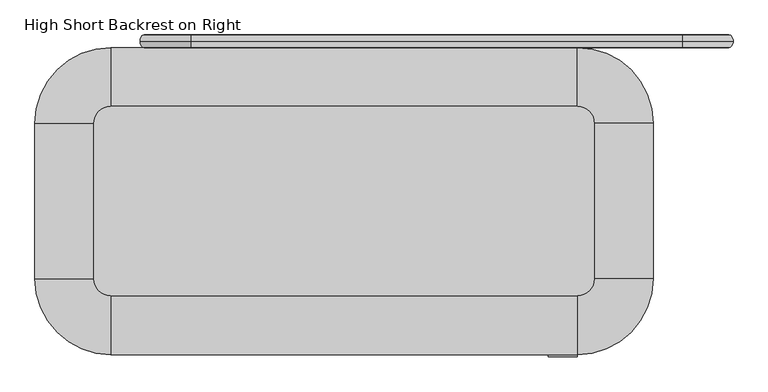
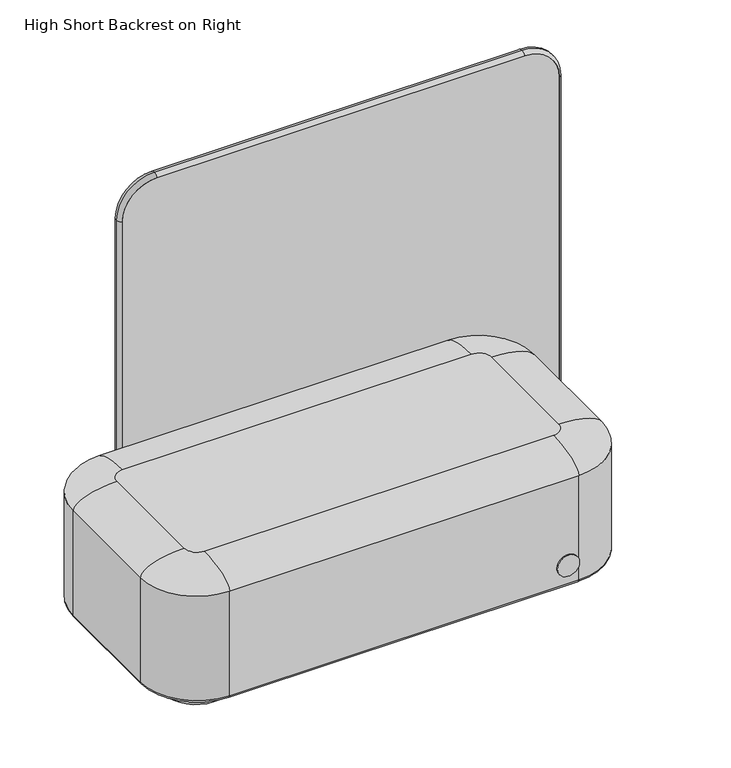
"""IFC4 building model written with IfcOpenShell, lengths in millimetres: furniture geometry, PODLounge  : High Short Backrest on Right."""

import ifcopenshell
import ifcopenshell.guid

model = None  # the IFC model being written
_history = None  # IfcOwnerHistory: only IFC2X3 demands one
_inside = {}  # id of a spatial element -> (the spatial element, [elements in it])
_under = {}  # id of a project, library or spatial element -> (it, [spatial elements below it])
_declared = {}  # id of a project -> (the project, [libraries it declares])
_typed = {}  # id of a type object -> (the type object, [elements of that type])
_made_of = {}  # id of a material, layer set ... -> (it, [elements and type objects made of it])


def new_model(schema):
    """Start an empty IFC model of exactly this schema.

    Asked for "IFC4X3", IfcOpenShell would pick the latest addendum, in which some entities
    have other attributes; the version numbers below select the first issue.
    IFC2X3 requires an IfcOwnerHistory on every rooted entity: one is made here for all.
    """
    global model, _history
    if schema == "IFC4X3":
        model = ifcopenshell.file(schema_version=(4, 3, 0, 0))
    else:
        model = ifcopenshell.file(schema=schema)
    _inside.clear()
    _under.clear()
    _declared.clear()
    _typed.clear()
    _made_of.clear()
    _history = None
    if model.schema == "IFC2X3":
        org = make("IfcOrganization", Name="unknown")
        user = make(
            "IfcPersonAndOrganization",
            ThePerson=make("IfcPerson", FamilyName="unknown"),
            TheOrganization=org,
        )
        app = make(
            "IfcApplication",
            ApplicationDeveloper=org,
            Version="unknown",
            ApplicationFullName="unknown",
            ApplicationIdentifier="unknown",
        )
        _history = make(
            "IfcOwnerHistory",
            OwningUser=user,
            OwningApplication=app,
            ChangeAction="ADDED",
            CreationDate=0,
        )
    return model


def make(cls, **values):
    """One entity of the class cls with the attributes given. An attribute that is None is left unset."""
    return model.create_entity(
        cls, **{name: value for name, value in values.items() if value is not None}
    )


def rooted(cls, **values):
    """An entity with a GlobalId (a new one), such as an element, a storey or a relation."""
    return make(cls, GlobalId=ifcopenshell.guid.new(), OwnerHistory=_history, **values)


def si_unit(unit_type, name, prefix=None):
    """IfcSIUnit, for example si_unit("LENGTHUNIT", "METRE", prefix="MILLI")."""
    return make("IfcSIUnit", UnitType=unit_type, Prefix=prefix, Name=name)


def assignment(units):
    """IfcUnitAssignment: the units of a project."""
    return None if units is None else make("IfcUnitAssignment", Units=units)


def point(xyz):
    """IfcCartesianPoint."""
    return None if xyz is None else make("IfcCartesianPoint", Coordinates=xyz)


def direction(xyz):
    """IfcDirection."""
    return None if xyz is None else make("IfcDirection", DirectionRatios=xyz)


def frame(location, z_axis=None, x_axis=None):
    """IfcAxis2Placement3D, a coordinate frame: its origin and axes. An axis left out is left unset."""
    return make(
        "IfcAxis2Placement3D",
        Location=point(location),
        Axis=direction(z_axis),
        RefDirection=direction(x_axis),
    )


def frame_2d(location, x_axis=None):
    """IfcAxis2Placement2D, a coordinate frame in the plane: its origin and x axis."""
    return make(
        "IfcAxis2Placement2D", Location=point(location), RefDirection=direction(x_axis)
    )


def origin():
    """The frame at (0, 0, 0) with its axes left unset."""
    return frame((0.0, 0.0, 0.0))


def origin_with_axes():
    """The frame at (0, 0, 0) with the z axis (0, 0, 1) and the x axis (1, 0, 0) written out."""
    return frame((0.0, 0.0, 0.0), z_axis=(0.0, 0.0, 1.0), x_axis=(1.0, 0.0, 0.0))


def place(relative_to, where):
    """IfcLocalPlacement: puts the frame where relative to a parent placement (None: the world)."""
    return make(
        "IfcLocalPlacement", PlacementRelTo=relative_to, RelativePlacement=where
    )


def context(
    kind, dimensions, precision=None, world=None, true_north=None, identifier=None
):
    """IfcGeometricRepresentationContext, for example the 3D "Model" context."""
    return make(
        "IfcGeometricRepresentationContext",
        ContextIdentifier=identifier,
        ContextType=kind,
        CoordinateSpaceDimension=dimensions,
        Precision=precision,
        WorldCoordinateSystem=world,
        TrueNorth=true_north,
    )


def project(units=None, contexts=None):
    """IfcProject with its units and contexts."""
    return rooted(
        "IfcProject",
        Name="project",
        RepresentationContexts=contexts,
        UnitsInContext=assignment(units),
    )


def spatial(cls, under=None, at=None, **own):
    """A site, building, storey or space (cls), placed at a placement, below another one or the project."""
    s = rooted(cls, ObjectPlacement=at, **own)
    if under is not None:
        _under.setdefault(under.id(), (under, []))[1].append(s)
    return s


def polyline(points):
    """IfcPolyline through the points."""
    return make("IfcPolyline", Points=[point(p) for p in points])


def circle_curve(where, radius):
    """IfcCircle in the frame where."""
    return make("IfcCircle", Position=where, Radius=radius)


def ellipse_curve(where, semi_axis1, semi_axis2):
    """IfcEllipse in the frame where."""
    return make(
        "IfcEllipse", Position=where, SemiAxis1=semi_axis1, SemiAxis2=semi_axis2
    )


def trimmed(basis, trim1, trim2, sense, master):
    """IfcTrimmedCurve: the piece of a basis curve between two trims."""
    return make(
        "IfcTrimmedCurve",
        BasisCurve=basis,
        Trim1=trim1,
        Trim2=trim2,
        SenseAgreement=sense,
        MasterRepresentation=master,
    )


def segment(curve, same_sense, transition):
    """IfcCompositeCurveSegment."""
    return make(
        "IfcCompositeCurveSegment",
        Transition=transition,
        SameSense=same_sense,
        ParentCurve=curve,
    )


def composite_curve(segments, self_intersect=None):
    """IfcCompositeCurve: segments joined end to end."""
    return make("IfcCompositeCurve", Segments=segments, SelfIntersect=self_intersect)


def outline(outer, holes=None, kind="AREA"):
    """IfcArbitraryClosedProfileDef: a profile drawn as a closed curve; with holes, ...WithVoids."""
    if holes is None:
        return make("IfcArbitraryClosedProfileDef", ProfileType=kind, OuterCurve=outer)
    return make(
        "IfcArbitraryProfileDefWithVoids",
        ProfileType=kind,
        OuterCurve=outer,
        InnerCurves=holes,
    )


def extrude(swept, where, along, depth):
    """IfcExtrudedAreaSolid: the profile swept, set in the frame where, extruded along a direction by depth."""
    return make(
        "IfcExtrudedAreaSolid",
        SweptArea=swept,
        Position=where,
        ExtrudedDirection=direction(along),
        Depth=depth,
    )


def shape(context_of_items, identifier, shape_type, items):
    """IfcShapeRepresentation: the items that make up one representation, for example the "Body"."""
    return make(
        "IfcShapeRepresentation",
        ContextOfItems=context_of_items,
        RepresentationIdentifier=identifier,
        RepresentationType=shape_type,
        Items=items,
    )


def source(mapping_origin, context_of_items, identifier, shape_type, items):
    """IfcRepresentationMap: a shape defined once, which mapped items show again and again."""
    return make(
        "IfcRepresentationMap",
        MappingOrigin=mapping_origin,
        MappedRepresentation=shape(context_of_items, identifier, shape_type, items),
    )


def transform(
    local_origin,
    x_axis=None,
    y_axis=None,
    z_axis=None,
    scale=None,
    scale2=None,
    scale3=None,
    uniform=True,
):
    """IfcCartesianTransformationOperator3D, or its non-uniform kind. x_axis, y_axis, z_axis: its Axis1, 2, 3."""
    if uniform:
        return make(
            "IfcCartesianTransformationOperator3D",
            Axis1=direction(x_axis),
            Axis2=direction(y_axis),
            LocalOrigin=point(local_origin),
            Scale=scale,
            Axis3=direction(z_axis),
        )
    return make(
        "IfcCartesianTransformationOperator3DnonUniform",
        Axis1=direction(x_axis),
        Axis2=direction(y_axis),
        LocalOrigin=point(local_origin),
        Scale=scale,
        Axis3=direction(z_axis),
        Scale2=scale2,
        Scale3=scale3,
    )


def mapped(mapping_source, mapping_target):
    """IfcMappedItem: shows the shape of a source again, moved by a transform."""
    return make(
        "IfcMappedItem", MappingSource=mapping_source, MappingTarget=mapping_target
    )


def made_of(thing, what):
    """Note that an element or type object is made of a material, layer set ...; save() writes the relation."""
    if what is not None:
        _made_of.setdefault(what.id(), (what, []))[1].append(thing)
    return thing


def element(
    cls,
    number,
    at=None,
    inside=None,
    cuts=None,
    type_object=None,
    material=None,
    context=None,
    identifier="Body",
    shape_type=None,
    held_by="IfcProductDefinitionShape",
    body=None,
    shapes=None,
    **own,
):
    """One element of the class cls, such as IfcWall. Its Tag is "e" and its number.

    at: its placement. inside: the storey or other place that contains it. cuts: it is an
    opening in that element (IfcRelVoidsElement). A single representation is given by context,
    identifier, shape_type and body (its items); several are given by shapes. held_by: the class
    of the entity that holds the representations. save() writes the other relations.
    """
    e = rooted(cls, Tag="e%d" % number, ObjectPlacement=at, **own)
    if body is not None:
        shapes = [shape(context, identifier, shape_type, body)]
    if shapes is not None:
        e.Representation = make(held_by, Representations=shapes)
    if inside is not None:
        _inside.setdefault(inside.id(), (inside, []))[1].append(e)
    if cuts is not None:
        rooted(
            "IfcRelVoidsElement", RelatingBuildingElement=cuts, RelatedOpeningElement=e
        )
    if type_object is not None:
        _typed.setdefault(type_object.id(), (type_object, []))[1].append(e)
    return made_of(e, material)


def aggregate(whole, parts):
    """IfcRelAggregates: a whole, such as a stair, and the parts it consists of."""
    return rooted("IfcRelAggregates", RelatingObject=whole, RelatedObjects=parts)


def save(model, path):
    """Write the relations noted so far, then the file.

    IfcRelAggregates (storeys below a building ...), IfcRelContainedInSpatialStructure (elements
    in a storey), IfcRelDefinesByType, IfcRelAssociatesMaterial and IfcRelDeclares: one each for
    every whole, place, type object, material and project.
    """
    for whole, parts in _under.values():
        aggregate(whole, parts)
    for where, things in _inside.values():
        rooted(
            "IfcRelContainedInSpatialStructure",
            RelatedElements=things,
            RelatingStructure=where,
        )
    for kind, things in _typed.values():
        rooted("IfcRelDefinesByType", RelatedObjects=things, RelatingType=kind)
    for what, things in _made_of.values():
        rooted("IfcRelAssociatesMaterial", RelatedObjects=things, RelatingMaterial=what)
    for by, libraries in _declared.values():
        rooted("IfcRelDeclares", RelatingContext=by, RelatedDefinitions=libraries)
    model.write(path)


def plane_surface(at):
    """IfcPlane: the flat surface through the origin of the frame at, square to its z axis."""
    return make("IfcPlane", Position=at)


def cylinder_surface(at, radius):
    """IfcCylindricalSurface: all points at the distance radius from the z axis of the frame at."""
    return make("IfcCylindricalSurface", Position=at, Radius=radius)


def revolved_surface(curve, axis_point, axis_direction):
    """IfcSurfaceOfRevolution: the curve turned about the line through axis_point along axis_direction."""
    return make(
        "IfcSurfaceOfRevolution",
        SweptCurve=make("IfcArbitraryOpenProfileDef", ProfileType="CURVE", Curve=curve),
        AxisPosition=make("IfcAxis1Placement", Location=point(axis_point), Axis=direction(axis_direction)),
    )


def extruded_surface(curve, direction_of_extrusion, depth):
    """IfcSurfaceOfLinearExtrusion: the curve pushed along a direction by depth."""
    return make(
        "IfcSurfaceOfLinearExtrusion",
        SweptCurve=make("IfcArbitraryOpenProfileDef", ProfileType="CURVE", Curve=curve),
        ExtrudedDirection=direction(direction_of_extrusion),
        Depth=depth,
    )


def advanced_brep(points, edges, surfaces, faces):
    """IfcAdvancedBrep: a solid bounded by faces that lie on surfaces and meet in shared edges.

    An edge is (start, end): straight between two places in points (the first is 0);
    or (start, end, curve); or (start, end, curve, False) where it runs against its curve.
    A face is (place in surfaces, loops), or (place, loops, False) where it looks against
    its surface's normal. A loop lists edges by number (the first is 1), with a minus sign
    where the edge is run from its end to its start. The first loop is the outer one.
    """
    corners = [point(p) for p in points]
    vertices = [make("IfcVertexPoint", VertexGeometry=c) for c in corners]
    made = []
    for start, end, *more in edges:
        made.append(
            make(
                "IfcEdgeCurve",
                EdgeStart=vertices[start],
                EdgeEnd=vertices[end],
                EdgeGeometry=more[0] if more else make("IfcPolyline", Points=[corners[start], corners[end]]),
                SameSense=more[1] if len(more) > 1 else True,
            )
        )
    hull = []
    for where, loops, *sense in faces:
        bounds = []
        for j, loop in enumerate(loops):
            ring = [make("IfcOrientedEdge", EdgeElement=made[abs(k) - 1], Orientation=k > 0) for k in loop]
            bounds.append(
                make(
                    "IfcFaceOuterBound" if j == 0 else "IfcFaceBound",
                    Bound=make("IfcEdgeLoop", EdgeList=ring),
                    Orientation=True,
                )
            )
        hull.append(make("IfcAdvancedFace", Bounds=bounds, FaceSurface=surfaces[where], SameSense=sense[0] if sense else True))
    return make("IfcAdvancedBrep", Outer=make("IfcClosedShell", CfsFaces=hull))


def high_short_backrest_on_right_1baca0a9(model_context):
    return source(origin(), model_context, "Body", "SolidModel", [
        advanced_brep(
        [(-329.9999916, 380.0, 12.0), (-360.0000084, 380.0, 12.0), (-350.0, 380.0, 12.0), (-340.0, 380.0, 12.0), (-350.0, 380.0, 37.4784241), (-340.0, 380.0, 37.4784241), (-345.0, 380.0, 37.4784241), (-345.0, 380.0, 0.0), (-360.0000084, 380.0, 0.0), (-329.9999916, 380.0, 0.0)],
        [
            (0, 1, circle_curve(frame((-345.0, 380.0, 12.0), z_axis=(0.0, 0.0, 1.0), x_axis=(-1.0, 0.0, 0.0)), 15.0000084)),
            (1, 2),
            (2, 3, circle_curve(frame((-345.0, 380.0, 12.0), z_axis=(0.0, 0.0, -1.0), x_axis=(-1.0, 0.0, 0.0)), 5.0)),
            (3, 0),
            (1, 0, circle_curve(frame((-345.0, 380.0, 12.0), z_axis=(0.0, 0.0, 1.0), x_axis=(-1.0, 0.0, 0.0)), 15.0000084)),
            (3, 2, circle_curve(frame((-345.0, 380.0, 12.0), z_axis=(0.0, 0.0, -1.0), x_axis=(-1.0, 0.0, 0.0)), 5.0)),
            (2, 4),
            (4, 5, circle_curve(frame((-345.0, 380.0, 37.4784241), z_axis=(0.0, 0.0, -1.0), x_axis=(-1.0, 0.0, 0.0)), 5.0)),
            (5, 3),
            (5, 4, circle_curve(frame((-345.0, 380.0, 37.4784241), z_axis=(0.0, 0.0, -1.0), x_axis=(-1.0, 0.0, 0.0)), 5.0)),
            (4, 6),
            (6, 5),
            (7, 8),
            (8, 9, circle_curve(frame((-345.0, 380.0, 0.0), z_axis=(0.0, 0.0, -1.0), x_axis=(-1.0, 0.0, 0.0)), 15.0000084)),
            (9, 7),
            (9, 8, circle_curve(frame((-345.0, 380.0, 0.0), z_axis=(0.0, 0.0, -1.0), x_axis=(-1.0, 0.0, 0.0)), 15.0000084)),
            (8, 1),
            (0, 9),
        ],
        [
            plane_surface(frame((-345.0, 380.0, 12.0), z_axis=(0.0, 0.0, 1.0), x_axis=(-1.0, 0.0, 0.0))),
            cylinder_surface(frame((-345.0, 380.0, 37.4784241), z_axis=(0.0, 0.0, -1.0), x_axis=(-1.0, 0.0, 0.0)), 5.0),
            plane_surface(frame((-345.0, 380.0, 37.4784241), z_axis=(0.0, 0.0, 1.0), x_axis=(-1.0, 0.0, 0.0))),
            plane_surface(frame((-345.0, 380.0, 0.0), z_axis=(0.0, 0.0, -1.0), x_axis=(-1.0, 0.0, 0.0))),
            cylinder_surface(frame((-345.0, 380.0, 37.4784241), z_axis=(0.0, 0.0, -1.0), x_axis=(-1.0, 0.0, 0.0)), 15.0000084),
        ],
        [
            (0, [[1, 2, 3, 4]]),
            (0, [[5, -4, 6, -2]]),
            (1, [[-3, 7, 8, 9]]),
            (1, [[-6, -9, 10, -7]]),
            (2, [[-8, 11, 12]]),
            (2, [[-10, -12, -11]]),
            (3, [[13, 14, 15]]),
            (3, [[-15, 16, -13]]),
            (4, [[-14, 17, -1, 18]]),
            (4, [[-16, -18, -5, -17]]),
        ],
    ),
        advanced_brep(
        [(769.9999916, 380.0, 12.0), (780.0, 380.0, 12.0), (790.0, 380.0, 12.0), (800.0000084, 380.0, 12.0), (780.0, 380.0, 37.4784241), (790.0, 380.0, 37.4784241), (785.0, 380.0, 37.4784241), (785.0, 380.0, 0.0), (769.9999916, 380.0, 0.0), (800.0000084, 380.0, 0.0)],
        [
            (0, 1),
            (1, 2, circle_curve(frame((785.0, 380.0, 12.0), z_axis=(0.0, 0.0, -1.0), x_axis=(1.0, 0.0, 0.0)), 5.0)),
            (2, 3),
            (3, 0, circle_curve(frame((785.0, 380.0, 12.0), z_axis=(0.0, 0.0, 1.0), x_axis=(1.0, 0.0, 0.0)), 15.0000084)),
            (2, 1, circle_curve(frame((785.0, 380.0, 12.0), z_axis=(0.0, 0.0, -1.0), x_axis=(1.0, 0.0, 0.0)), 5.0)),
            (0, 3, circle_curve(frame((785.0, 380.0, 12.0), z_axis=(0.0, 0.0, 1.0), x_axis=(1.0, 0.0, 0.0)), 15.0000084)),
            (1, 4),
            (4, 5, circle_curve(frame((785.0, 380.0, 37.4784241), z_axis=(0.0, 0.0, -1.0), x_axis=(1.0, 0.0, 0.0)), 5.0)),
            (5, 2),
            (5, 4, circle_curve(frame((785.0, 380.0, 37.4784241), z_axis=(0.0, 0.0, -1.0), x_axis=(1.0, 0.0, 0.0)), 5.0)),
            (4, 6),
            (6, 5),
            (7, 8),
            (8, 9, circle_curve(frame((785.0, 380.0, 0.0), z_axis=(0.0, 0.0, -1.0), x_axis=(1.0, 0.0, 0.0)), 15.0000084)),
            (9, 7),
            (9, 8, circle_curve(frame((785.0, 380.0, 0.0), z_axis=(0.0, 0.0, -1.0), x_axis=(1.0, 0.0, 0.0)), 15.0000084)),
            (8, 0),
            (3, 9),
        ],
        [
            plane_surface(frame((785.0, 380.0, 12.0), z_axis=(0.0, 0.0, 1.0), x_axis=(1.0, 0.0, 0.0))),
            cylinder_surface(frame((785.0, 380.0, 37.4784241), z_axis=(0.0, 0.0, -1.0), x_axis=(1.0, 0.0, 0.0)), 5.0),
            plane_surface(frame((785.0, 380.0, 37.4784241), z_axis=(0.0, 0.0, 1.0), x_axis=(1.0, 0.0, 0.0))),
            plane_surface(frame((785.0, 380.0, 0.0), z_axis=(0.0, 0.0, -1.0), x_axis=(1.0, 0.0, 0.0))),
            cylinder_surface(frame((785.0, 380.0, 37.4784241), z_axis=(0.0, 0.0, -1.0), x_axis=(1.0, 0.0, 0.0)), 15.0000084),
        ],
        [
            (0, [[1, 2, 3, 4]]),
            (0, [[-3, 5, -1, 6]]),
            (1, [[7, 8, 9, -2]]),
            (1, [[-9, 10, -7, -5]]),
            (2, [[11, 12, -8]]),
            (2, [[-12, -11, -10]]),
            (3, [[13, 14, 15]]),
            (3, [[-15, 16, -13]]),
            (4, [[17, -4, 18, -14]]),
            (4, [[-18, -6, -17, -16]]),
        ],
    ),
        advanced_brep(
        [(915.0, 395.0, 1180.0), (915.0, 365.0, 1180.0), (805.0, 365.0, 1290.0), (805.0, 395.0, 1290.0), (915.0, 395.0, 150.0), (915.0, 365.0, 150.0), (805.0, 395.0, 40.0), (805.0, 365.0, 40.0), (-365.0, 395.0, 40.0), (-365.0, 365.0, 40.0), (-475.0, 395.0, 150.0), (-475.0, 365.0, 150.0), (-475.0, 395.0, 1180.0), (-475.0, 365.0, 1180.0), (-365.0, 395.0, 1290.0), (-365.0, 365.0, 1290.0), (924.9992342, 379.8143612, 1180.0), (805.0, 379.8143612, 1299.9992342), (924.9992342, 379.8143612, 150.0), (805.0, 379.8143612, 30.0007658), (-365.0, 379.8143612, 30.0007658), (-484.9992342, 379.8143612, 150.0), (-484.9992342, 379.8143612, 1180.0), (-365.0, 379.8143612, 1299.9992342)],
        [
            (0, 1),
            (1, 2, circle_curve(frame((805.0, 365.0, 1180.0), z_axis=(0.0, -1.0, 0.0), x_axis=(0.0, 0.0, 1.0)), 110.0)),
            (2, 3),
            (3, 0, circle_curve(frame((805.0, 395.0, 1180.0), z_axis=(0.0, 1.0, 0.0), x_axis=(0.0, 0.0, 1.0)), 110.0)),
            (0, 4),
            (4, 5),
            (5, 1),
            (6, 7),
            (7, 5, circle_curve(frame((805.0, 365.0, 150.0), z_axis=(0.0, -1.0, 0.0), x_axis=(1.0, 0.0, 0.0)), 110.0)),
            (4, 6, circle_curve(frame((805.0, 395.0, 150.0), z_axis=(0.0, 1.0, 0.0), x_axis=(1.0, 0.0, 0.0)), 110.0)),
            (6, 8),
            (8, 9),
            (9, 7),
            (10, 11),
            (11, 9, circle_curve(frame((-365.0, 365.0, 150.0), z_axis=(0.0, -1.0, 0.0), x_axis=(0.0, 0.0, -1.0)), 110.0)),
            (8, 10, circle_curve(frame((-365.0, 395.0, 150.0), z_axis=(0.0, 1.0, 0.0), x_axis=(0.0, 0.0, -1.0)), 110.0)),
            (10, 12),
            (12, 13),
            (13, 11),
            (14, 15),
            (15, 13, circle_curve(frame((-365.0, 365.0, 1180.0), z_axis=(0.0, -1.0, 0.0), x_axis=(-1.0, 0.0, 0.0)), 110.0)),
            (12, 14, circle_curve(frame((-365.0, 395.0, 1180.0), z_axis=(0.0, 1.0, 0.0), x_axis=(-1.0, 0.0, 0.0)), 110.0)),
            (14, 3),
            (2, 15),
            (16, 0, ellipse_curve(frame((915.0, 380.0, 1180.0), z_axis=(0.0, 0.0, 1.0), x_axis=(0.0, 1.0, 0.0)), 15.0, 10.0)),
            (3, 17, ellipse_curve(frame((805.0, 380.0, 1290.0), z_axis=(1.0, 0.0, 0.0), x_axis=(0.0, 1.0, 0.0)), 15.0, 10.0)),
            (17, 16, circle_curve(frame((805.0, 379.8143612, 1180.0), z_axis=(0.0, 1.0, 0.0), x_axis=(0.0, 0.0, 1.0)), 119.9992342)),
            (1, 16, ellipse_curve(frame((915.0, 380.0, 1180.0), z_axis=(0.0, 0.0, 1.0), x_axis=(0.0, 1.0, 0.0)), 15.0, 10.0)),
            (17, 2, ellipse_curve(frame((805.0, 380.0, 1290.0), z_axis=(1.0, 0.0, 0.0), x_axis=(0.0, 1.0, 0.0)), 15.0, 10.0)),
            (16, 18),
            (18, 4, ellipse_curve(frame((915.0, 380.0, 150.0), z_axis=(0.0, 0.0, 1.0), x_axis=(0.0, 1.0, 0.0)), 15.0, 10.0)),
            (5, 18, ellipse_curve(frame((915.0, 380.0, 150.0), z_axis=(0.0, 0.0, 1.0), x_axis=(0.0, 1.0, 0.0)), 15.0, 10.0)),
            (19, 6, ellipse_curve(frame((805.0, 380.0, 40.0), z_axis=(1.0, 0.0, 0.0), x_axis=(0.0, 1.0, 0.0)), 15.0, 10.0)),
            (18, 19, circle_curve(frame((805.0, 379.8143612, 150.0), z_axis=(0.0, 1.0, 0.0), x_axis=(1.0, 0.0, 0.0)), 119.9992342)),
            (7, 19, ellipse_curve(frame((805.0, 380.0, 40.0), z_axis=(1.0, 0.0, 0.0), x_axis=(0.0, 1.0, 0.0)), 15.0, 10.0)),
            (19, 20),
            (20, 8, ellipse_curve(frame((-365.0, 380.0, 40.0), z_axis=(1.0, 0.0, 0.0), x_axis=(0.0, 1.0, 0.0)), 15.0, 10.0)),
            (9, 20, ellipse_curve(frame((-365.0, 380.0, 40.0), z_axis=(1.0, 0.0, 0.0), x_axis=(0.0, 1.0, 0.0)), 15.0, 10.0)),
            (21, 10, ellipse_curve(frame((-475.0, 380.0, 150.0), z_axis=(0.0, 0.0, -1.0), x_axis=(0.0, 1.0, 0.0)), 15.0, 10.0)),
            (20, 21, circle_curve(frame((-365.0, 379.8143612, 150.0), z_axis=(0.0, 1.0, 0.0), x_axis=(0.0, 0.0, -1.0)), 119.9992342)),
            (11, 21, ellipse_curve(frame((-475.0, 380.0, 150.0), z_axis=(0.0, 0.0, -1.0), x_axis=(0.0, 1.0, 0.0)), 15.0, 10.0)),
            (21, 22),
            (22, 12, ellipse_curve(frame((-475.0, 380.0, 1180.0), z_axis=(0.0, 0.0, -1.0), x_axis=(0.0, 1.0, 0.0)), 15.0, 10.0)),
            (13, 22, ellipse_curve(frame((-475.0, 380.0, 1180.0), z_axis=(0.0, 0.0, -1.0), x_axis=(0.0, 1.0, 0.0)), 15.0, 10.0)),
            (23, 14, ellipse_curve(frame((-365.0, 380.0, 1290.0), z_axis=(-1.0, 0.0, 0.0), x_axis=(0.0, 1.0, 0.0)), 15.0, 10.0)),
            (22, 23, circle_curve(frame((-365.0, 379.8143612, 1180.0), z_axis=(0.0, 1.0, 0.0), x_axis=(-1.0, 0.0, 0.0)), 119.9992342)),
            (15, 23, ellipse_curve(frame((-365.0, 380.0, 1290.0), z_axis=(-1.0, 0.0, 0.0), x_axis=(0.0, 1.0, 0.0)), 15.0, 10.0)),
            (23, 17),
        ],
        [
            revolved_surface(polyline([(805.0, 365.0, 1290.0), (805.0, 395.0, 1290.0)]), (805.0, 395.0, 1180.0), (0.0, -1.0, 0.0)),
            plane_surface(frame((915.0, 365.0, 1180.0), z_axis=(-1.0, 0.0, 0.0), x_axis=(0.0, 0.0, -1.0))),
            revolved_surface(polyline([(915.0, 365.0, 150.0), (915.0, 395.0, 150.0)]), (805.0, 395.0, 150.0), (0.0, -1.0, 0.0)),
            plane_surface(frame((805.0, 365.0, 40.0), z_axis=(0.0, 0.0, 1.0), x_axis=(-1.0, 0.0, 0.0))),
            revolved_surface(polyline([(-365.0, 365.0, 40.0), (-365.0, 395.0, 40.0)]), (-365.0, 395.0, 150.0), (0.0, -1.0, 0.0)),
            plane_surface(frame((-475.0, 365.0, 150.0), z_axis=(1.0, 0.0, 0.0), x_axis=(0.0, 0.0, 1.0))),
            revolved_surface(polyline([(-475.0, 365.0, 1180.0), (-475.0, 395.0, 1180.0)]), (-365.0, 395.0, 1180.0), (0.0, -1.0, 0.0)),
            plane_surface(frame((-365.0, 365.0, 1290.0), z_axis=(0.0, 0.0, -1.0), x_axis=(1.0, 0.0, 0.0))),
            revolved_surface(trimmed(ellipse_curve(frame((805.0, 380.0, 1290.0), z_axis=(1.0, 0.0, 0.0), x_axis=(0.0, 1.0, 0.0)), 15.0, 10.0), [point((805.0, 395.0, 1290.0))], [point((805.0, 379.8143612, 1299.9992342))], True, "CARTESIAN"), (805.0, 395.0, 1180.0), (0.0, -1.0, 0.0)),
            revolved_surface(trimmed(ellipse_curve(frame((805.0, 380.0, 1290.0), z_axis=(1.0, 0.0, 0.0), x_axis=(0.0, 1.0, 0.0)), 15.0, 10.0), [point((805.0, 379.8143612, 1299.9992342))], [point((805.0, 365.0, 1290.0))], True, "CARTESIAN"), (805.0, 395.0, 1180.0), (0.0, -1.0, 0.0)),
            extruded_surface(trimmed(ellipse_curve(frame((915.0, 380.0, 1180.0), z_axis=(0.0, 0.0, -1.0), x_axis=(0.0, 1.0, 0.0)), 15.0, 10.0), [point((915.0, 395.0, 1180.0))], [point((924.9992342, 379.8143612, 1180.0))], True, "CARTESIAN"), (0.0, 0.0, -1030.0), 1030.0),
            extruded_surface(trimmed(ellipse_curve(frame((915.0, 380.0, 1180.0), z_axis=(0.0, 0.0, -1.0), x_axis=(0.0, 1.0, 0.0)), 15.0, 10.0), [point((924.9992342, 379.8143612, 1180.0))], [point((915.0, 365.0, 1180.0))], True, "CARTESIAN"), (0.0, 0.0, -1030.0), 1030.0),
            revolved_surface(trimmed(ellipse_curve(frame((915.0, 380.0, 150.0), z_axis=(0.0, 0.0, -1.0), x_axis=(0.0, 1.0, 0.0)), 15.0, 10.0), [point((915.0, 395.0, 150.0))], [point((924.9992342, 379.8143612, 150.0))], True, "CARTESIAN"), (805.0, 395.0, 150.0), (0.0, -1.0, 0.0)),
            revolved_surface(trimmed(ellipse_curve(frame((915.0, 380.0, 150.0), z_axis=(0.0, 0.0, -1.0), x_axis=(0.0, 1.0, 0.0)), 15.0, 10.0), [point((924.9992342, 379.8143612, 150.0))], [point((915.0, 365.0, 150.0))], True, "CARTESIAN"), (805.0, 395.0, 150.0), (0.0, -1.0, 0.0)),
            extruded_surface(trimmed(ellipse_curve(frame((805.0, 380.0, 40.0), z_axis=(-1.0, 0.0, 0.0), x_axis=(0.0, 1.0, 0.0)), 15.0, 10.0), [point((805.0, 395.0, 40.0))], [point((805.0, 379.8143612, 30.0007658))], True, "CARTESIAN"), (-1170.0, 0.0, 0.0), 1170.0),
            extruded_surface(trimmed(ellipse_curve(frame((805.0, 380.0, 40.0), z_axis=(-1.0, 0.0, 0.0), x_axis=(0.0, 1.0, 0.0)), 15.0, 10.0), [point((805.0, 379.8143612, 30.0007658))], [point((805.0, 365.0, 40.0))], True, "CARTESIAN"), (-1170.0, 0.0, 0.0), 1170.0),
            revolved_surface(trimmed(ellipse_curve(frame((-365.0, 380.0, 40.0), z_axis=(-1.0, 0.0, 0.0), x_axis=(0.0, 1.0, 0.0)), 15.0, 10.0), [point((-365.0, 395.0, 40.0))], [point((-365.0, 379.8143612, 30.0007658))], True, "CARTESIAN"), (-365.0, 395.0, 150.0), (0.0, -1.0, 0.0)),
            revolved_surface(trimmed(ellipse_curve(frame((-365.0, 380.0, 40.0), z_axis=(-1.0, 0.0, 0.0), x_axis=(0.0, 1.0, 0.0)), 15.0, 10.0), [point((-365.0, 379.8143612, 30.0007658))], [point((-365.0, 365.0, 40.0))], True, "CARTESIAN"), (-365.0, 395.0, 150.0), (0.0, -1.0, 0.0)),
            extruded_surface(trimmed(ellipse_curve(frame((-475.0, 380.0, 150.0), z_axis=(0.0, 0.0, 1.0), x_axis=(0.0, 1.0, 0.0)), 15.0, 10.0), [point((-475.0, 395.0, 150.0))], [point((-484.9992342, 379.8143612, 150.0))], True, "CARTESIAN"), (0.0, 0.0, 1030.0), 1030.0),
            extruded_surface(trimmed(ellipse_curve(frame((-475.0, 380.0, 150.0), z_axis=(0.0, 0.0, 1.0), x_axis=(0.0, 1.0, 0.0)), 15.0, 10.0), [point((-484.9992342, 379.8143612, 150.0))], [point((-475.0, 365.0, 150.0))], True, "CARTESIAN"), (0.0, 0.0, 1030.0), 1030.0),
            revolved_surface(trimmed(ellipse_curve(frame((-475.0, 380.0, 1180.0), z_axis=(0.0, 0.0, 1.0), x_axis=(0.0, 1.0, 0.0)), 15.0, 10.0), [point((-475.0, 395.0, 1180.0))], [point((-484.9992342, 379.8143612, 1180.0))], True, "CARTESIAN"), (-365.0, 395.0, 1180.0), (0.0, -1.0, 0.0)),
            revolved_surface(trimmed(ellipse_curve(frame((-475.0, 380.0, 1180.0), z_axis=(0.0, 0.0, 1.0), x_axis=(0.0, 1.0, 0.0)), 15.0, 10.0), [point((-484.9992342, 379.8143612, 1180.0))], [point((-475.0, 365.0, 1180.0))], True, "CARTESIAN"), (-365.0, 395.0, 1180.0), (0.0, -1.0, 0.0)),
            extruded_surface(trimmed(ellipse_curve(frame((-365.0, 380.0, 1290.0), z_axis=(1.0, 0.0, 0.0), x_axis=(0.0, 1.0, 0.0)), 15.0, 10.0), [point((-365.0, 395.0, 1290.0))], [point((-365.0, 379.8143612, 1299.9992342))], True, "CARTESIAN"), (1170.0, 0.0, 0.0), 1170.0),
            extruded_surface(trimmed(ellipse_curve(frame((-365.0, 380.0, 1290.0), z_axis=(1.0, 0.0, 0.0), x_axis=(0.0, 1.0, 0.0)), 15.0, 10.0), [point((-365.0, 379.8143612, 1299.9992342))], [point((-365.0, 365.0, 1290.0))], True, "CARTESIAN"), (1170.0, 0.0, 0.0), 1170.0),
        ],
        [
            (0, [[1, 2, 3, 4]]),
            (1, [[5, 6, 7, -1]]),
            (2, [[8, 9, -6, 10]]),
            (3, [[11, 12, 13, -8]]),
            (4, [[14, 15, -12, 16]]),
            (5, [[17, 18, 19, -14]]),
            (6, [[20, 21, -18, 22]]),
            (7, [[23, -3, 24, -20]]),
            (8, [[25, -4, 26, 27]]),
            (9, [[28, -27, 29, -2]]),
            (10, [[30, 31, -5, -25]]),
            (11, [[-7, 32, -30, -28]]),
            (12, [[33, -10, -31, 34]]),
            (13, [[35, -34, -32, -9]]),
            (14, [[36, 37, -11, -33]]),
            (15, [[-13, 38, -36, -35]]),
            (16, [[39, -16, -37, 40]]),
            (17, [[41, -40, -38, -15]]),
            (18, [[42, 43, -17, -39]]),
            (19, [[-19, 44, -42, -41]]),
            (20, [[45, -22, -43, 46]]),
            (21, [[47, -46, -44, -21]]),
            (22, [[48, -26, -23, -45]]),
            (23, [[-24, -29, -48, -47]]),
        ],
    ),
        extrude(outline(composite_curve([segment(polyline([(1290.0, 805.0), (1290.0, -365.0)]), True, "CONTINUOUS"), segment(trimmed(circle_curve(frame_2d((1180.0, -365.0)), 110.0), [point((1290.0, -365.0))], [point((1180.0, -475.0))], False, "CARTESIAN"), True, "CONTINUOUS"), segment(polyline([(1180.0, -475.0), (150.0, -475.0)]), True, "CONTINUOUS"), segment(trimmed(circle_curve(frame_2d((150.0, -365.0)), 110.0), [point((150.0, -475.0))], [point((40.0, -365.0))], False, "CARTESIAN"), True, "CONTINUOUS"), segment(polyline([(40.0, -365.0), (40.0, 805.0)]), True, "CONTINUOUS"), segment(trimmed(circle_curve(frame_2d((150.0, 805.0)), 110.0), [point((40.0, 805.0))], [point((150.0, 915.0))], False, "CARTESIAN"), True, "CONTINUOUS"), segment(polyline([(150.0, 915.0), (1180.0, 915.0)]), True, "CONTINUOUS"), segment(trimmed(circle_curve(frame_2d((1180.0, 805.0)), 110.0), [point((1180.0, 915.0))], [point((1290.0, 805.0))], False, "CARTESIAN"), True, "CONTINUOUS")], self_intersect=False)), frame((0.0, 365.0, 0.0), z_axis=(0.0, 1.0, 0.0), x_axis=(0.0, 0.0, 1.0)), (0.0, 0.0, 1.0), 30.0),
        advanced_brep(
        [(-555.0, 225.0, 460.0), (-595.0, 185.0, 460.0), (-595.0, -185.0, 460.0), (-555.0, -225.0, 460.0), (555.0, -225.0, 460.0), (595.0, -185.0, 460.0), (595.0, 185.0, 460.0), (555.0, 225.0, 460.0), (-725.0, 185.0, 50.0), (-555.0, 355.0, 50.0), (555.0, 355.0, 50.0), (725.0, 185.0, 50.0), (725.0, -185.0, 50.0), (555.0, -355.0, 50.0), (-555.0, -355.0, 50.0), (-725.0, -185.0, 50.0), (555.0, -365.0, 410.0), (555.0, -365.0, 60.0), (735.0, -185.0, 60.0), (735.0, -185.0, 410.0), (735.0, 185.0, 60.0), (735.0, 185.0, 410.0), (555.0, 365.0, 60.0), (555.0, 365.0, 410.0), (-555.0, 365.0, 60.0), (-555.0, 365.0, 410.0), (-735.0, 185.0, 410.0), (-735.0, 185.0, 60.0), (-735.0, -185.0, 60.0), (-735.0, -185.0, 410.0), (-555.0, -365.0, 410.0), (-555.0, -365.0, 60.0)],
        [
            (0, 1, circle_curve(frame((-555.0, 185.0, 460.0), z_axis=(0.0, 0.0, 1.0), x_axis=(0.0, 1.0, 0.0)), 40.0)),
            (1, 2),
            (2, 3, circle_curve(frame((-555.0, -185.0, 460.0), z_axis=(0.0, 0.0, 1.0), x_axis=(-1.0, 0.0, 0.0)), 40.0)),
            (3, 4),
            (4, 5, circle_curve(frame((555.0, -185.0, 460.0), z_axis=(0.0, 0.0, 1.0), x_axis=(0.0, -1.0, 0.0)), 40.0)),
            (5, 6),
            (6, 7, circle_curve(frame((555.0, 185.0, 460.0), z_axis=(0.0, 0.0, 1.0), x_axis=(1.0, 0.0, 0.0)), 40.0)),
            (7, 0),
            (8, 9, circle_curve(frame((-555.0, 185.0, 50.0), z_axis=(0.0, 0.0, -1.0), x_axis=(0.0, 1.0, 0.0)), 170.0)),
            (9, 10),
            (10, 11, circle_curve(frame((555.0, 185.0, 50.0), z_axis=(0.0, 0.0, -1.0), x_axis=(1.0, 0.0, 0.0)), 170.0)),
            (11, 12),
            (12, 13, circle_curve(frame((555.0, -185.0, 50.0), z_axis=(0.0, 0.0, -1.0), x_axis=(0.0, -1.0, 0.0)), 170.0)),
            (13, 14),
            (14, 15, circle_curve(frame((-555.0, -185.0, 50.0), z_axis=(0.0, 0.0, -1.0), x_axis=(-1.0, 0.0, 0.0)), 170.0)),
            (15, 8),
            (16, 17),
            (17, 18, circle_curve(frame((555.0, -185.0, 60.0), z_axis=(0.0, 0.0, 1.0), x_axis=(1.0, 0.0, 0.0)), 180.0)),
            (18, 19),
            (19, 16, circle_curve(frame((555.0, -185.0, 410.0), z_axis=(0.0, 0.0, -1.0), x_axis=(1.0, 0.0, 0.0)), 180.0)),
            (18, 20),
            (20, 21),
            (21, 19),
            (20, 22, circle_curve(frame((555.0, 185.0, 60.0), z_axis=(0.0, 0.0, 1.0), x_axis=(1.0, 0.0, 0.0)), 180.0)),
            (22, 23),
            (23, 21, circle_curve(frame((555.0, 185.0, 410.0), z_axis=(0.0, 0.0, -1.0), x_axis=(1.0, 0.0, 0.0)), 180.0)),
            (22, 24),
            (24, 25),
            (25, 23),
            (26, 27),
            (27, 28),
            (28, 29),
            (29, 26),
            (16, 30),
            (30, 31),
            (31, 17),
            (26, 25, circle_curve(frame((-555.0, 185.0, 410.0), z_axis=(0.0, 0.0, -1.0), x_axis=(1.0, 0.0, 0.0)), 180.0)),
            (24, 27, circle_curve(frame((-555.0, 185.0, 60.0), z_axis=(0.0, 0.0, 1.0), x_axis=(1.0, 0.0, 0.0)), 180.0)),
            (30, 29, circle_curve(frame((-555.0, -185.0, 410.0), z_axis=(0.0, 0.0, -1.0), x_axis=(1.0, 0.0, 0.0)), 180.0)),
            (28, 31, circle_curve(frame((-555.0, -185.0, 60.0), z_axis=(0.0, 0.0, 1.0), x_axis=(1.0, 0.0, 0.0)), 180.0)),
            (26, 1, ellipse_curve(frame((-595.0, 185.0, 410.0), z_axis=(0.0, 1.0, 0.0), x_axis=(-1.0, 0.0, 0.0)), 140.0, 50.0)),
            (0, 25, ellipse_curve(frame((-555.0, 225.0, 410.0), z_axis=(-1.0, 0.0, 0.0), x_axis=(0.0, 1.0, 0.0)), 140.0, 50.0)),
            (29, 2, ellipse_curve(frame((-595.0, -185.0, 410.0), z_axis=(0.0, 1.0, 0.0), x_axis=(-1.0, 0.0, 0.0)), 140.0, 50.0)),
            (30, 3, ellipse_curve(frame((-555.0, -225.0, 410.0), z_axis=(-1.0, 0.0, 0.0), x_axis=(0.0, -1.0, 0.0)), 140.0, 50.0)),
            (16, 4, ellipse_curve(frame((555.0, -225.0, 410.0), z_axis=(-1.0, 0.0, 0.0), x_axis=(0.0, -1.0, 0.0)), 140.0, 50.0)),
            (19, 5, ellipse_curve(frame((595.0, -185.0, 410.0), z_axis=(0.0, -1.0, 0.0), x_axis=(1.0, 0.0, 0.0)), 140.0, 50.0)),
            (21, 6, ellipse_curve(frame((595.0, 185.0, 410.0), z_axis=(0.0, -1.0, 0.0), x_axis=(1.0, 0.0, 0.0)), 140.0, 50.0)),
            (23, 7, ellipse_curve(frame((555.0, 225.0, 410.0), z_axis=(1.0, 0.0, 0.0), x_axis=(0.0, 1.0, 0.0)), 140.0, 50.0)),
            (8, 27, circle_curve(frame((-725.0, 185.0, 60.0), z_axis=(0.0, 1.0, 0.0), x_axis=(1.0, 0.0, 0.0)), 10.0)),
            (24, 9, circle_curve(frame((-555.0, 355.0, 60.0), z_axis=(-1.0, 0.0, 0.0), x_axis=(0.0, -1.0, 0.0)), 10.0)),
            (15, 28, circle_curve(frame((-725.0, -185.0, 60.0), z_axis=(0.0, 1.0, 0.0), x_axis=(1.0, 0.0, 0.0)), 10.0)),
            (14, 31, circle_curve(frame((-555.0, -355.0, 60.0), z_axis=(-1.0, 0.0, 0.0), x_axis=(0.0, 1.0, 0.0)), 10.0)),
            (13, 17, circle_curve(frame((555.0, -355.0, 60.0), z_axis=(-1.0, 0.0, 0.0), x_axis=(0.0, 1.0, 0.0)), 10.0)),
            (12, 18, circle_curve(frame((725.0, -185.0, 60.0), z_axis=(0.0, -1.0, 0.0), x_axis=(-1.0, 0.0, 0.0)), 10.0)),
            (11, 20, circle_curve(frame((725.0, 185.0, 60.0), z_axis=(0.0, -1.0, 0.0), x_axis=(-1.0, 0.0, 0.0)), 10.0)),
            (10, 22, circle_curve(frame((555.0, 355.0, 60.0), z_axis=(1.0, 0.0, 0.0), x_axis=(0.0, -1.0, 0.0)), 10.0)),
        ],
        [
            plane_surface(frame((735.0, -185.0, 460.0), z_axis=(0.0, 0.0, 1.0), x_axis=(0.0, 1.0, 0.0))),
            plane_surface(frame((735.0, -185.0, 50.0), z_axis=(0.0, 0.0, -1.0), x_axis=(0.0, -1.0, 0.0))),
            cylinder_surface(frame((555.0, -185.0, 50.0), z_axis=(0.0, 0.0, 1.0), x_axis=(1.0, 0.0, 0.0)), 180.0),
            plane_surface(frame((735.0, -185.0, 460.0), z_axis=(1.0, 0.0, 0.0), x_axis=(0.0, 0.0, -1.0))),
            cylinder_surface(frame((555.0, 185.0, 50.0), z_axis=(0.0, 0.0, 1.0), x_axis=(1.0, 0.0, 0.0)), 180.0),
            plane_surface(frame((555.0, 365.0, 460.0), z_axis=(0.0, 1.0, 0.0), x_axis=(0.0, 0.0, -1.0))),
            plane_surface(frame((-735.0, 185.0, 460.0), z_axis=(-1.0, 0.0, 0.0), x_axis=(0.0, 0.0, -1.0))),
            plane_surface(frame((-555.0, -365.0, 460.0), z_axis=(0.0, -1.0, 0.0), x_axis=(0.0, 0.0, -1.0))),
            cylinder_surface(frame((-555.0, 185.0, 50.0), z_axis=(0.0, 0.0, 1.0), x_axis=(1.0, 0.0, 0.0)), 180.0),
            cylinder_surface(frame((-555.0, -185.0, 50.0), z_axis=(0.0, 0.0, 1.0), x_axis=(1.0, 0.0, 0.0)), 180.0),
            revolved_surface(trimmed(ellipse_curve(frame((-555.0, 225.0, 410.0), z_axis=(1.0, 0.0, 0.0), x_axis=(0.0, 1.0, 0.0)), 140.0, 50.0), [point((-555.0, 365.0, 410.0))], [point((-555.0, 225.0, 460.0))], True, "CARTESIAN"), (-555.0, 185.0, 0.0), (0.0, 0.0, 1.0)),
            extruded_surface(trimmed(ellipse_curve(frame((-595.0, 185.0, 410.0), z_axis=(0.0, -1.0, 0.0), x_axis=(-1.0, 0.0, 0.0)), 140.0, 50.0), [point((-595.0, 185.0, 460.0))], [point((-735.0, 185.0, 410.0))], True, "CARTESIAN"), (0.0, -370.0, 0.0), 370.0),
            revolved_surface(trimmed(ellipse_curve(frame((-595.0, -185.0, 410.0), z_axis=(0.0, 1.0, 0.0), x_axis=(-1.0, 0.0, 0.0)), 140.0, 50.0), [point((-735.0, -185.0, 410.0))], [point((-595.0, -185.0, 460.0))], True, "CARTESIAN"), (-555.0, -185.0, 0.0), (0.0, 0.0, 1.0)),
            extruded_surface(trimmed(ellipse_curve(frame((-555.0, -225.0, 410.0), z_axis=(1.0, 0.0, 0.0), x_axis=(0.0, -1.0, 0.0)), 140.0, 50.0), [point((-555.0, -225.0, 460.0))], [point((-555.0, -365.0, 410.0))], True, "CARTESIAN"), (1110.0, 0.0, 0.0), 1110.0),
            revolved_surface(trimmed(ellipse_curve(frame((555.0, -225.0, 410.0), z_axis=(-1.0, 0.0, 0.0), x_axis=(0.0, -1.0, 0.0)), 140.0, 50.0), [point((555.0, -365.0, 410.0))], [point((555.0, -225.0, 460.0))], True, "CARTESIAN"), (555.0, -185.0, 0.0), (0.0, 0.0, 1.0)),
            extruded_surface(trimmed(ellipse_curve(frame((595.0, -185.0, 410.0), z_axis=(0.0, 1.0, 0.0), x_axis=(1.0, 0.0, 0.0)), 140.0, 50.0), [point((595.0, -185.0, 460.0))], [point((735.0, -185.0, 410.0))], True, "CARTESIAN"), (0.0, 370.0, 0.0), 370.0),
            revolved_surface(trimmed(ellipse_curve(frame((595.0, 185.0, 410.0), z_axis=(0.0, -1.0, 0.0), x_axis=(1.0, 0.0, 0.0)), 140.0, 50.0), [point((735.0, 185.0, 410.0))], [point((595.0, 185.0, 460.0))], True, "CARTESIAN"), (555.0, 185.0, 0.0), (0.0, 0.0, 1.0)),
            extruded_surface(trimmed(ellipse_curve(frame((555.0, 225.0, 410.0), z_axis=(-1.0, 0.0, 0.0), x_axis=(0.0, 1.0, 0.0)), 140.0, 50.0), [point((555.0, 225.0, 460.0))], [point((555.0, 365.0, 410.0))], True, "CARTESIAN"), (-1110.0, 0.0, 0.0), 1110.0),
            revolved_surface(trimmed(ellipse_curve(frame((-555.0, 355.0, 60.0), z_axis=(1.0, 0.0, 0.0), x_axis=(0.0, -1.0, 0.0)), 10.0, 10.0), [point((-555.0, 355.0, 50.0))], [point((-555.0, 365.0, 60.0))], True, "CARTESIAN"), (-555.0, 185.0, 0.0), (0.0, 0.0, 1.0)),
            cylinder_surface(frame((-725.0, 185.0, 60.0), z_axis=(0.0, -1.0, 0.0), x_axis=(1.0, 0.0, 0.0)), 10.0),
            revolved_surface(trimmed(ellipse_curve(frame((-725.0, -185.0, 60.0), z_axis=(0.0, 1.0, 0.0), x_axis=(1.0, 0.0, 0.0)), 10.0, 10.0), [point((-725.0, -185.0, 50.0))], [point((-735.0, -185.0, 60.0))], True, "CARTESIAN"), (-555.0, -185.0, 0.0), (0.0, 0.0, 1.0)),
            cylinder_surface(frame((-555.0, -355.0, 60.0), z_axis=(1.0, 0.0, 0.0), x_axis=(0.0, 1.0, 0.0)), 10.0),
            revolved_surface(trimmed(ellipse_curve(frame((555.0, -355.0, 60.0), z_axis=(-1.0, 0.0, 0.0), x_axis=(0.0, 1.0, 0.0)), 10.0, 10.0), [point((555.0, -355.0, 50.0))], [point((555.0, -365.0, 60.0))], True, "CARTESIAN"), (555.0, -185.0, 0.0), (0.0, 0.0, 1.0)),
            cylinder_surface(frame((725.0, -185.0, 60.0), z_axis=(0.0, 1.0, 0.0), x_axis=(-1.0, 0.0, 0.0)), 10.0),
            revolved_surface(trimmed(ellipse_curve(frame((725.0, 185.0, 60.0), z_axis=(0.0, -1.0, 0.0), x_axis=(-1.0, 0.0, 0.0)), 10.0, 10.0), [point((725.0, 185.0, 50.0))], [point((735.0, 185.0, 60.0))], True, "CARTESIAN"), (555.0, 185.0, 0.0), (0.0, 0.0, 1.0)),
            cylinder_surface(frame((555.0, 355.0, 60.0), z_axis=(-1.0, 0.0, 0.0), x_axis=(0.0, -1.0, 0.0)), 10.0),
        ],
        [
            (0, [[1, 2, 3, 4, 5, 6, 7, 8]]),
            (1, [[9, 10, 11, 12, 13, 14, 15, 16]]),
            (2, [[17, 18, 19, 20]]),
            (3, [[-19, 21, 22, 23]]),
            (4, [[-22, 24, 25, 26]]),
            (5, [[-25, 27, 28, 29]]),
            (6, [[30, 31, 32, 33]]),
            (7, [[-17, 34, 35, 36]]),
            (8, [[-30, 37, -28, 38]]),
            (9, [[-35, 39, -32, 40]]),
            (10, [[41, -1, 42, -37]]),
            (11, [[-41, -33, 43, -2]]),
            (12, [[-43, -39, 44, -3]]),
            (13, [[-44, -34, 45, -4]]),
            (14, [[-45, -20, 46, -5]]),
            (15, [[-46, -23, 47, -6]]),
            (16, [[-47, -26, 48, -7]]),
            (17, [[-42, -8, -48, -29]]),
            (18, [[49, -38, 50, -9]]),
            (19, [[-49, -16, 51, -31]]),
            (20, [[-51, -15, 52, -40]]),
            (21, [[-52, -14, 53, -36]]),
            (22, [[-53, -13, 54, -18]]),
            (23, [[-54, -12, 55, -21]]),
            (24, [[-55, -11, 56, -24]]),
            (25, [[-50, -27, -56, -10]]),
        ],
    ),
        extrude(outline(composite_curve([segment(polyline([(565.0, -295.0), (-565.0, -295.0)]), True, "CONTINUOUS"), segment(trimmed(circle_curve(frame_2d((-565.0, -195.0)), 100.0), [point((-565.0, -295.0))], [point((-665.0, -195.0))], False, "CARTESIAN"), True, "CONTINUOUS"), segment(polyline([(-665.0, -195.0), (-665.0, 195.0)]), True, "CONTINUOUS"), segment(trimmed(circle_curve(frame_2d((-565.0, 195.0)), 100.0), [point((-665.0, 195.0))], [point((-565.0, 295.0))], False, "CARTESIAN"), True, "CONTINUOUS"), segment(polyline([(-565.0, 295.0), (565.0, 295.0)]), True, "CONTINUOUS"), segment(trimmed(circle_curve(frame_2d((565.0, 195.0)), 100.0), [point((565.0, 295.0))], [point((665.0, 195.0))], False, "CARTESIAN"), True, "CONTINUOUS"), segment(polyline([(665.0, 195.0), (665.0, -195.0)]), True, "CONTINUOUS"), segment(trimmed(circle_curve(frame_2d((565.0, -195.0)), 100.0), [point((665.0, -195.0))], [point((565.0, -295.0))], False, "CARTESIAN"), True, "CONTINUOUS")], self_intersect=False)), origin_with_axes(), (0.0, 0.0, 1.0), 50.0),
        extrude(outline(composite_curve([segment(trimmed(circle_curve(frame_2d((122.8625944, 520.0)), 35.0), [point((122.8625944, 555.0))], [point((122.8625944, 485.0))], False, "CARTESIAN"), True, "CONTINUOUS"), segment(trimmed(circle_curve(frame_2d((122.8625944, 520.0)), 35.0), [point((122.8625944, 485.0))], [point((122.8625944, 555.0))], False, "CARTESIAN"), True, "CONTINUOUS")], self_intersect=False)), frame((0.0, -370.0, 0.0), z_axis=(0.0, 1.0, 0.0), x_axis=(0.0, 0.0, 1.0)), (0.0, 0.0, 1.0), 5.0),
    ])


if __name__ == "__main__":
    model = new_model("IFC4")
    model_context = context("Model", 3, world=origin())
    ifc_project = project(units=[si_unit("LENGTHUNIT", "METRE", prefix="MILLI")], contexts=[model_context])
    site = spatial("IfcSite", under=ifc_project)
    building = spatial("IfcBuilding", under=site)
    placement = place(None, origin())
    high_short_backrest_on_right_shape = high_short_backrest_on_right_1baca0a9(model_context)
    element("IfcFurniture", 1, ObjectType="PODLounge  : High Short Backrest on Right", at=placement, inside=building, context=model_context, shape_type="MappedRepresentation", body=[
        mapped(high_short_backrest_on_right_shape, transform((0.0, 0.0, 0.0), x_axis=(1.0, 0.0, 0.0), y_axis=(0.0, 1.0, 0.0), z_axis=(0.0, 0.0, 1.0))),
    ])
    save(model, "model.ifc")
